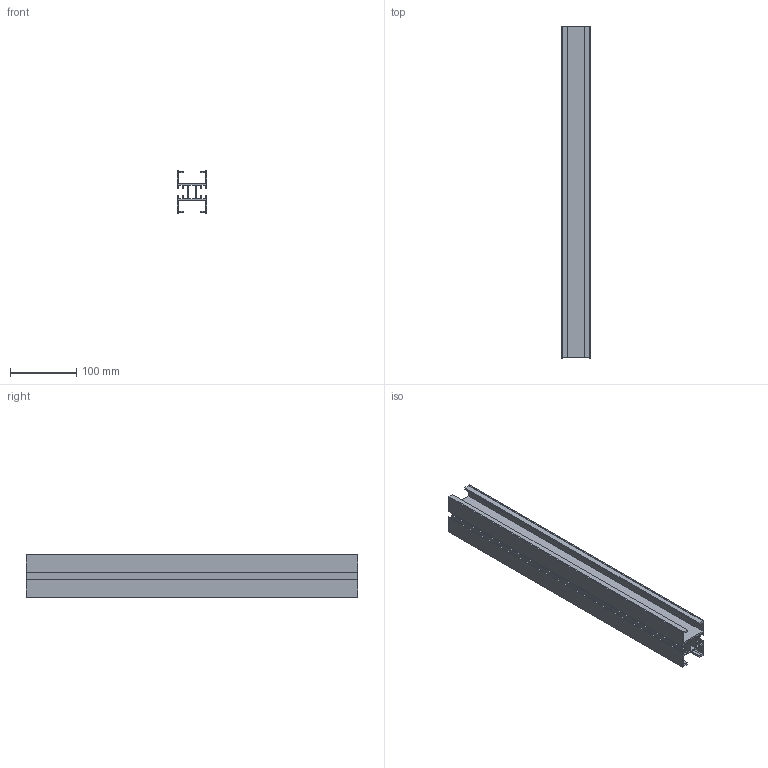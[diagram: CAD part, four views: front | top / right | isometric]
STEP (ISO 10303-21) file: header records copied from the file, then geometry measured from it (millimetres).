
FILE_DESCRIPTION (( 'STEP AP203' ), '1' );
FILE_NAME ('FKCB-3.STEP', '2010-02-23T09:46:55', ( '.' ), ( '' ), 'SwSTEP 2.0', 'SolidWorks 2009', '' );
FILE_SCHEMA (( 'CONFIG_CONTROL_DESIGN' ));
Length unit declared in the file: millimetre
Products named in the file (1): FKCB-3
Bounding box: 45 x 500 x 64.2 mm (x, y, z)
Volume: 293540 mm3; surface area: 283074.2 mm2
Topology: 1 solids, 1 shells, 74 faces, 216 edges, 144 vertices
Faces by surface type: plane 74
Entity records: 2481 total; most frequent: CARTESIAN_POINT 435, ORIENTED_EDGE 432, DIRECTION 366, EDGE_CURVE 216, LINE 216, VECTOR 216, VERTEX_POINT 144, EDGE_LOOP 76
